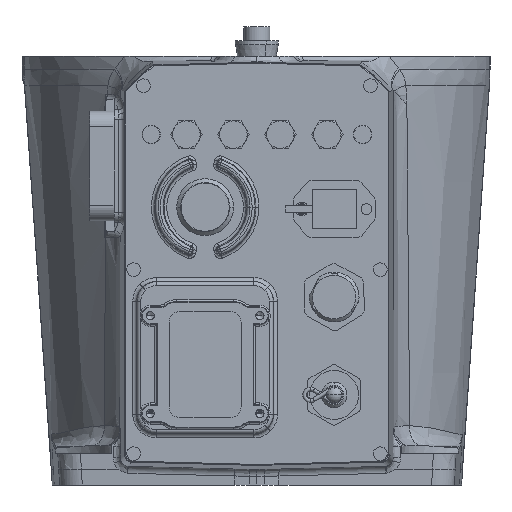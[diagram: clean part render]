
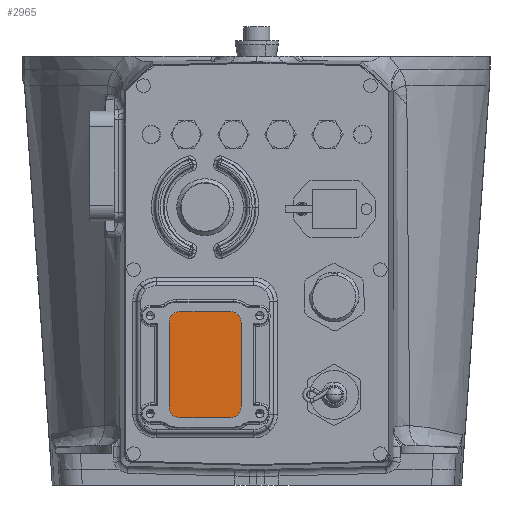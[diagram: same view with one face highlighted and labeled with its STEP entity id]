
A CAD part, left-side view. The second image highlights one B-rep face of the part: STEP entity #2965.
In plain terms, the highlighted planar face has unit normal (-1, 0, 0).
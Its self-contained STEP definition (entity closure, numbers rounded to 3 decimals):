
#2965 = ADVANCED_FACE ( 'NONE', ( #12024 ), #30366, .T. ) ;
#4496 = CARTESIAN_POINT ( 'NONE',  ( -181.6, 8.058, 39.926 ) ) ;
#4945 = CARTESIAN_POINT ( 'NONE',  ( -181.6, 13.558, 34.426 ) ) ;
#5058 = CARTESIAN_POINT ( 'NONE',  ( -181.6, 39.358, 34.426 ) ) ;
#5335 = CARTESIAN_POINT ( 'NONE',  ( -181.6, 13.558, 88.626 ) ) ;
#5715 = DIRECTION ( 'NONE',  ( 0., -1., 0. ) ) ;
#5717 = DIRECTION ( 'NONE',  ( -1., 0., 0. ) ) ;
#5719 = CARTESIAN_POINT ( 'NONE',  ( -181.6, 13.558, 83.126 ) ) ;
#5729 = CARTESIAN_POINT ( 'NONE',  ( -181.6, 13.558, 88.626 ) ) ;
#5733 = DIRECTION ( 'NONE',  ( 0., 0., 1. ) ) ;
#5736 = CARTESIAN_POINT ( 'NONE',  ( -181.6, 8.058, 39.926 ) ) ;
#5744 = DIRECTION ( 'NONE',  ( 0., 1., 0. ) ) ;
#5839 = DIRECTION ( 'NONE',  ( 0., -1., 0. ) ) ;
#5841 = DIRECTION ( 'NONE',  ( -1., 0., 0. ) ) ;
#5843 = CARTESIAN_POINT ( 'NONE',  ( -181.6, 13.558, 39.926 ) ) ;
#5851 = DIRECTION ( 'NONE',  ( 0., -1., 0. ) ) ;
#5854 = CARTESIAN_POINT ( 'NONE',  ( -181.6, 39.358, 34.426 ) ) ;
#5878 = DIRECTION ( 'NONE',  ( 0., -1., 0. ) ) ;
#5882 = DIRECTION ( 'NONE',  ( -1., 0., 0. ) ) ;
#5884 = CARTESIAN_POINT ( 'NONE',  ( -181.6, 39.358, 39.926 ) ) ;
#5894 = DIRECTION ( 'NONE',  ( 0., 0., -1. ) ) ;
#5897 = CARTESIAN_POINT ( 'NONE',  ( -181.6, 44.858, 83.126 ) ) ;
#6016 = DIRECTION ( 'NONE',  ( 0., -1., 0. ) ) ;
#6018 = DIRECTION ( 'NONE',  ( -1., 0., 0. ) ) ;
#6020 = CARTESIAN_POINT ( 'NONE',  ( -181.6, 39.358, 83.126 ) ) ;
#7633 = AXIS2_PLACEMENT_3D ( 'NONE', #5719, #5717, #5715 ) ;
#7635 = AXIS2_PLACEMENT_3D ( 'NONE', #5843, #5841, #5839 ) ;
#7636 = AXIS2_PLACEMENT_3D ( 'NONE', #5884, #5882, #5878 ) ;
#7637 = AXIS2_PLACEMENT_3D ( 'NONE', #6020, #6018, #6016 ) ;
#9426 = CARTESIAN_POINT ( 'NONE',  ( -181.6, 44.858, 39.926 ) ) ;
#9443 = CARTESIAN_POINT ( 'NONE',  ( -181.6, 8.058, 83.126 ) ) ;
#9520 = CARTESIAN_POINT ( 'NONE',  ( -181.6, 44.858, 83.126 ) ) ;
#9597 = CARTESIAN_POINT ( 'NONE',  ( -181.6, 39.358, 88.626 ) ) ;
#10384 = ORIENTED_EDGE ( 'NONE', *, *, #26295, .T. ) ;
#10482 = VERTEX_POINT ( 'NONE', #5335 ) ;
#10537 = ORIENTED_EDGE ( 'NONE', *, *, #26300, .T. ) ;
#10584 = ORIENTED_EDGE ( 'NONE', *, *, #26311, .T. ) ;
#10684 = VERTEX_POINT ( 'NONE', #5058 ) ;
#10686 = ORIENTED_EDGE ( 'NONE', *, *, #26312, .T. ) ;
#10722 = ORIENTED_EDGE ( 'NONE', *, *, #26296, .T. ) ;
#10882 = VERTEX_POINT ( 'NONE', #4945 ) ;
#10886 = ORIENTED_EDGE ( 'NONE', *, *, #26291, .T. ) ;
#10897 = ORIENTED_EDGE ( 'NONE', *, *, #26309, .T. ) ;
#11234 = EDGE_LOOP ( 'NONE', ( #10886, #10384, #10722, #11536, #10537, #10897, #10584, #10686 ) ) ;
#11536 = ORIENTED_EDGE ( 'NONE', *, *, #26299, .T. ) ;
#11564 = VERTEX_POINT ( 'NONE', #4496 ) ;
#12024 = FACE_OUTER_BOUND ( 'NONE', #11234, .T. ) ;
#21581 = VERTEX_POINT ( 'NONE', #9597 ) ;
#21720 = VERTEX_POINT ( 'NONE', #9520 ) ;
#22010 = VERTEX_POINT ( 'NONE', #9443 ) ;
#22014 = VERTEX_POINT ( 'NONE', #9426 ) ;
#22553 = LINE ( 'NONE', #5729, #22554 ) ;
#22554 = VECTOR ( 'NONE', #5744, 1000. ) ;
#22559 = VECTOR ( 'NONE', #5733, 1000. ) ;
#22561 = LINE ( 'NONE', #5736, #22559 ) ;
#22564 = VECTOR ( 'NONE', #5851, 1000. ) ;
#22565 = LINE ( 'NONE', #5854, #22564 ) ;
#22567 = CIRCLE ( 'NONE', #7635, 5.5 ) ;
#22568 = LINE ( 'NONE', #5897, #22570 ) ;
#22569 = CIRCLE ( 'NONE', #7636, 5.5 ) ;
#22570 = VECTOR ( 'NONE', #5894, 1000. ) ;
#22571 = CIRCLE ( 'NONE', #7633, 5.5 ) ;
#22574 = CIRCLE ( 'NONE', #7637, 5.5 ) ;
#25622 = AXIS2_PLACEMENT_3D ( 'NONE', #30370, #30364, #30363 ) ;
#26291 = EDGE_CURVE ( 'NONE', #21581, #21720, #22574, .T. ) ;
#26295 = EDGE_CURVE ( 'NONE', #21720, #22014, #22568, .T. ) ;
#26296 = EDGE_CURVE ( 'NONE', #22014, #10684, #22569, .T. ) ;
#26299 = EDGE_CURVE ( 'NONE', #10684, #10882, #22565, .T. ) ;
#26300 = EDGE_CURVE ( 'NONE', #10882, #11564, #22567, .T. ) ;
#26309 = EDGE_CURVE ( 'NONE', #11564, #22010, #22561, .T. ) ;
#26311 = EDGE_CURVE ( 'NONE', #22010, #10482, #22571, .T. ) ;
#26312 = EDGE_CURVE ( 'NONE', #10482, #21581, #22553, .T. ) ;
#30363 = DIRECTION ( 'NONE',  ( 0., -1., 0. ) ) ;
#30364 = DIRECTION ( 'NONE',  ( -1., 0., 0. ) ) ;
#30366 = PLANE ( 'NONE',  #25622 ) ;
#30370 = CARTESIAN_POINT ( 'NONE',  ( -181.6, 44.608, 35.57 ) ) ;
